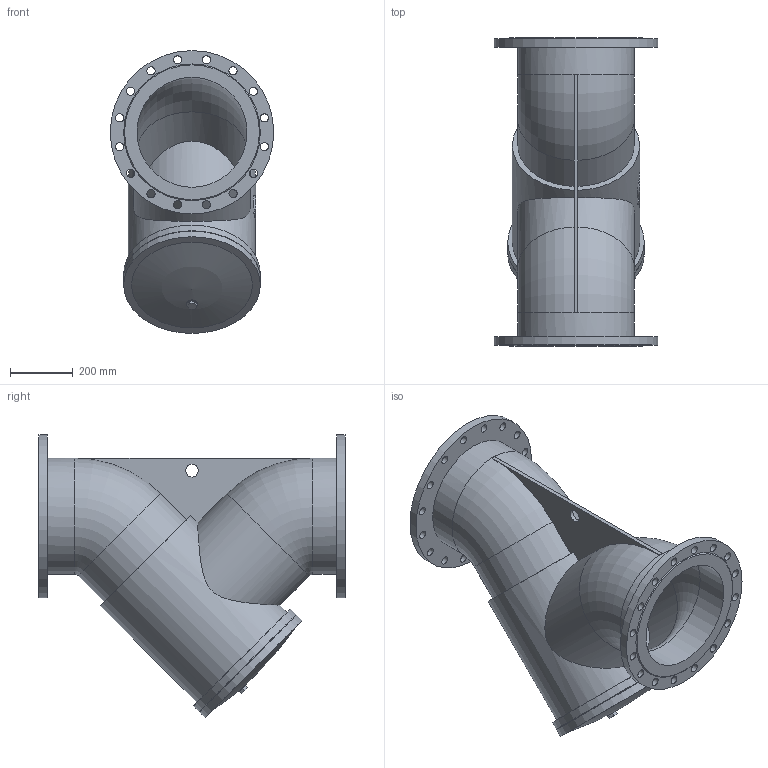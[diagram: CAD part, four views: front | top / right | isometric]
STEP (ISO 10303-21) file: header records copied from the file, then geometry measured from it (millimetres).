
FILE_DESCRIPTION(('STEP AP203'), '1');
FILE_NAME('Ôèëüòð ñåò÷àòûé ôëàíöåâûé 021Y DN350 PN16', '', ('UNSPECIFIED'), ('UNSPECIFIED'), 'ASCON STEP Converter 1.6', 'ASCON Math Kernel', '');
FILE_SCHEMA(('CONFIG_CONTROL_DESIGN'));
Length unit declared in the file: millimetre
Bounding box: 520 x 980 x 900 mm (x, y, z)
Volume: 80441088.6 mm3; surface area: 3415030.3 mm2
Topology: 1 solids, 1 shells, 100 faces, 242 edges, 157 vertices
Faces by surface type: cylinder 56, plane 37, torus 4, cone 2, sphere 1
Full cylindrical faces by diameter (mm): 26 x32, 35 x1, 40 x1, 350 x4, 370 x2, 405 x1, 423 x1, 435 x2, 520 x2
Entity records: 4965 total; most frequent: CARTESIAN_POINT 1777, DIRECTION 495, ORIENTED_EDGE 378, EDGE_LOOP 231, AXIS2_PLACEMENT_3D 218, EDGE_CURVE 189, VERTEX_POINT 156, FACE_BOUND 134
